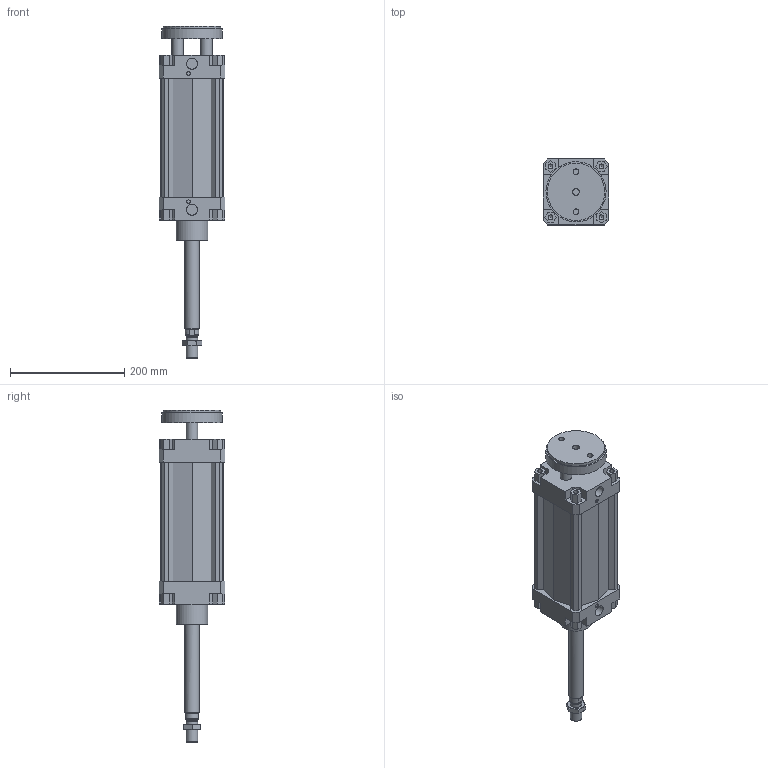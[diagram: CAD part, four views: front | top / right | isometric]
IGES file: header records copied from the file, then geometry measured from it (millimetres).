
Global section: file name: 132#_100_0150_02; native system: Autodesk Inventor 2014; preprocessor: unknown; author: A. Manieri; date: 20161006.163703; units: millimetre
Bounding box: 115 x 115 x 580 mm (x, y, z)
Volume: 2415973.9 mm3; surface area: 381943.6 mm2
Topology: 3 solids, 3 shells, 220 faces, 589 edges, 397 vertices
Faces by surface type: bspline 220
